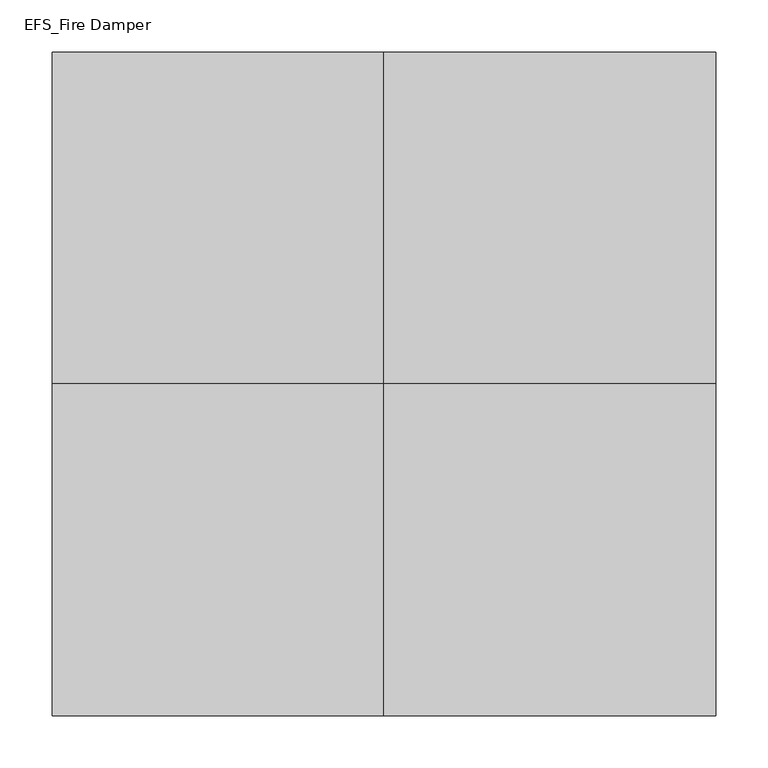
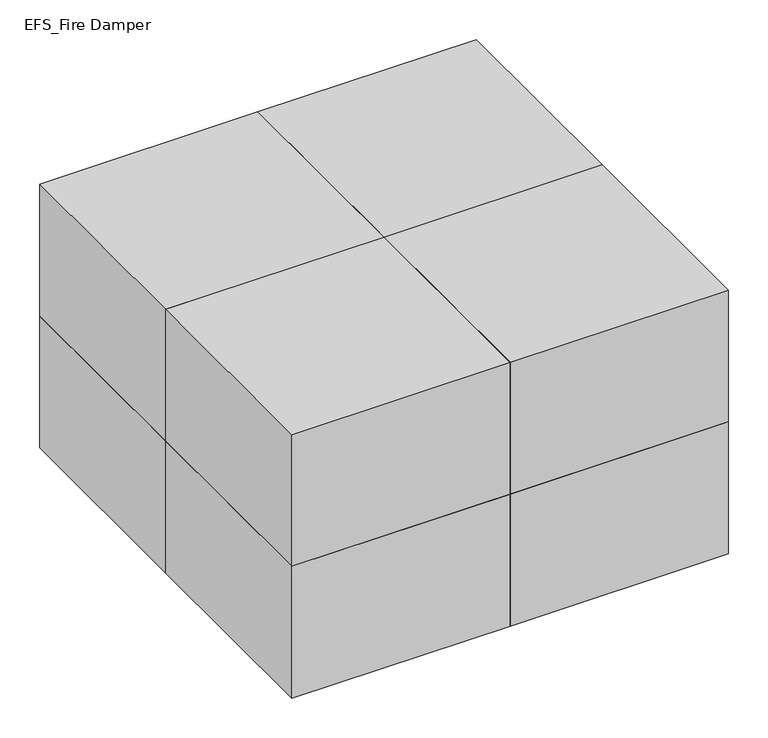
"""IFC4 building model written with IfcOpenShell, lengths in millimetres: proxy geometry, EFS_Fire Damper : Fire Damper(FD)-EFS-F-3."""

from ifc_helpers import new_model, si_unit, frame, origin, place, context, project, spatial, polyline, outline, extrude, source, transform, mapped, element, save


def efs_fire_damper_2e3d3fd8(model_context):
    return source(origin(), model_context, "Body", "SweptSolid", [
        extrude(outline(polyline([(0.0, -318.0), (0.0, 0.0), (318.0, 0.0), (318.0, -318.0), (0.0, -318.0)])), frame((0.0, 0.0, -403.0), z_axis=(0.0, 0.0, 1.0), x_axis=(1.0, 0.0, 0.0)), (0.0, 0.0, 1.0), 203.0),
        extrude(outline(polyline([(0.0, -318.0), (-318.0, -318.0), (-318.0, 0.0), (0.0, 0.0), (0.0, -318.0)])), frame((0.0, 0.0, -403.0), z_axis=(0.0, 0.0, 1.0), x_axis=(1.0, 0.0, 0.0)), (0.0, 0.0, 1.0), 203.0),
        extrude(outline(polyline([(0.0, 318.0), (318.0, 318.0), (318.0, 0.0), (0.0, 0.0), (0.0, 318.0)])), frame((0.0, 0.0, -403.0), z_axis=(0.0, 0.0, 1.0), x_axis=(1.0, 0.0, 0.0)), (0.0, 0.0, 1.0), 203.0),
        extrude(outline(polyline([(0.0, 318.0), (0.0, 0.0), (-318.0, 0.0), (-318.0, 318.0), (0.0, 318.0)])), frame((0.0, 0.0, -403.0), z_axis=(0.0, 0.0, 1.0), x_axis=(1.0, 0.0, 0.0)), (0.0, 0.0, 1.0), 203.0),
        extrude(outline(polyline([(0.0, -318.0), (0.0, 0.0), (318.0, 0.0), (318.0, -318.0), (0.0, -318.0)])), frame((0.0, 0.0, -200.0), z_axis=(0.0, 0.0, 1.0), x_axis=(1.0, 0.0, 0.0)), (0.0, 0.0, 1.0), 203.0),
        extrude(outline(polyline([(0.0, -318.0), (-318.0, -318.0), (-318.0, 0.0), (0.0, 0.0), (0.0, -318.0)])), frame((0.0, 0.0, -200.0), z_axis=(0.0, 0.0, 1.0), x_axis=(1.0, 0.0, 0.0)), (0.0, 0.0, 1.0), 203.0),
        extrude(outline(polyline([(0.0, 318.0), (318.0, 318.0), (318.0, 0.0), (0.0, 0.0), (0.0, 318.0)])), frame((0.0, 0.0, -200.0), z_axis=(0.0, 0.0, 1.0), x_axis=(1.0, 0.0, 0.0)), (0.0, 0.0, 1.0), 203.0),
        extrude(outline(polyline([(0.0, 318.0), (0.0, 0.0), (-318.0, 0.0), (-318.0, 318.0), (0.0, 318.0)])), frame((0.0, 0.0, -200.0), z_axis=(0.0, 0.0, 1.0), x_axis=(1.0, 0.0, 0.0)), (0.0, 0.0, 1.0), 203.0),
    ])


if __name__ == "__main__":
    model = new_model("IFC4")
    model_context = context("Model", 3, world=origin())
    ifc_project = project(units=[si_unit("LENGTHUNIT", "METRE", prefix="MILLI")], contexts=[model_context])
    site = spatial("IfcSite", under=ifc_project)
    building = spatial("IfcBuilding", under=site)
    placement = place(None, origin())
    efs_fire_damper_shape = efs_fire_damper_2e3d3fd8(model_context)
    element("IfcBuildingElementProxy", 1, Name="EFS_Fire Damper : Fire Damper(FD)-EFS-F-3", ObjectType="EFS_Fire Damper : Fire Damper(FD)-EFS-F-3", at=placement, inside=building, context=model_context, shape_type="MappedRepresentation", body=[
        mapped(efs_fire_damper_shape, transform((0.0, 0.0, 0.0), x_axis=(1.0, 0.0, 0.0), y_axis=(0.0, 1.0, 0.0), z_axis=(0.0, 0.0, 1.0))),
    ])
    save(model, "model.ifc")
